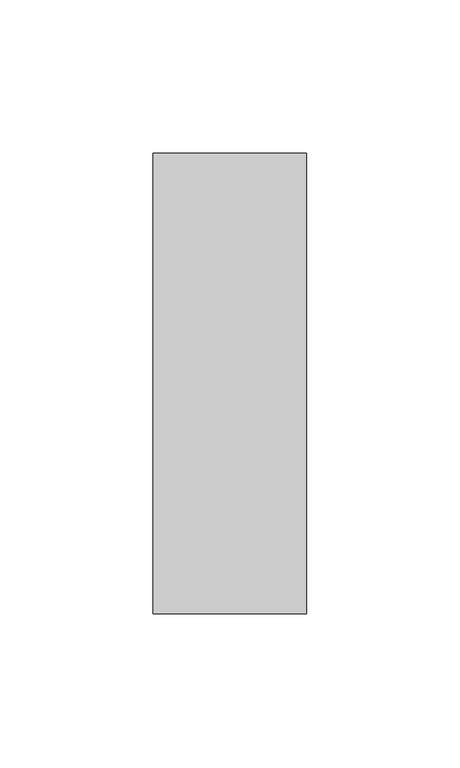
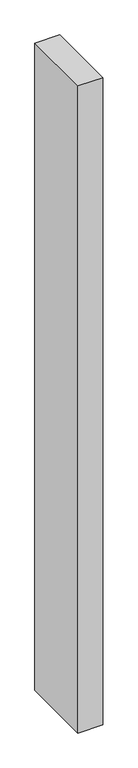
"""IFC4 building model written with IfcOpenShell, lengths in millimetres: member geometry, Прямоугольный импост : 50х150мм."""

from ifc_helpers import new_model, si_unit, frame, origin, place, context, project, spatial, polyline, outline, extrude, source, transform, mapped, element, save


def member_61b3b229(model_context):
    return source(origin(), model_context, "Body", "SweptSolid", [
        extrude(outline(polyline([(0.0, 75.0), (0.0, -75.0), (-50.0, -75.0), (-50.0, 75.0), (0.0, 75.0)])), frame((0.0, 0.0, -1380.0), z_axis=(0.0, 0.0, 1.0), x_axis=(1.0, 0.0, 0.0)), (0.0, 0.0, 1.0), 1380.0),
    ])


if __name__ == "__main__":
    model = new_model("IFC4")
    model_context = context("Model", 3, world=origin())
    ifc_project = project(units=[si_unit("LENGTHUNIT", "METRE", prefix="MILLI")], contexts=[model_context])
    site = spatial("IfcSite", under=ifc_project)
    building = spatial("IfcBuilding", under=site)
    placement = place(None, origin())
    member_shape = member_61b3b229(model_context)
    element("IfcMember", 1, ObjectType="Прямоугольный импост : 50х150мм", at=placement, inside=building, context=model_context, shape_type="MappedRepresentation", body=[
        mapped(member_shape, transform((0.0, 0.0, 0.0), x_axis=(1.0, 0.0, 0.0), y_axis=(0.0, 1.0, 0.0), z_axis=(0.0, 0.0, 1.0))),
    ])
    save(model, "model.ifc")
